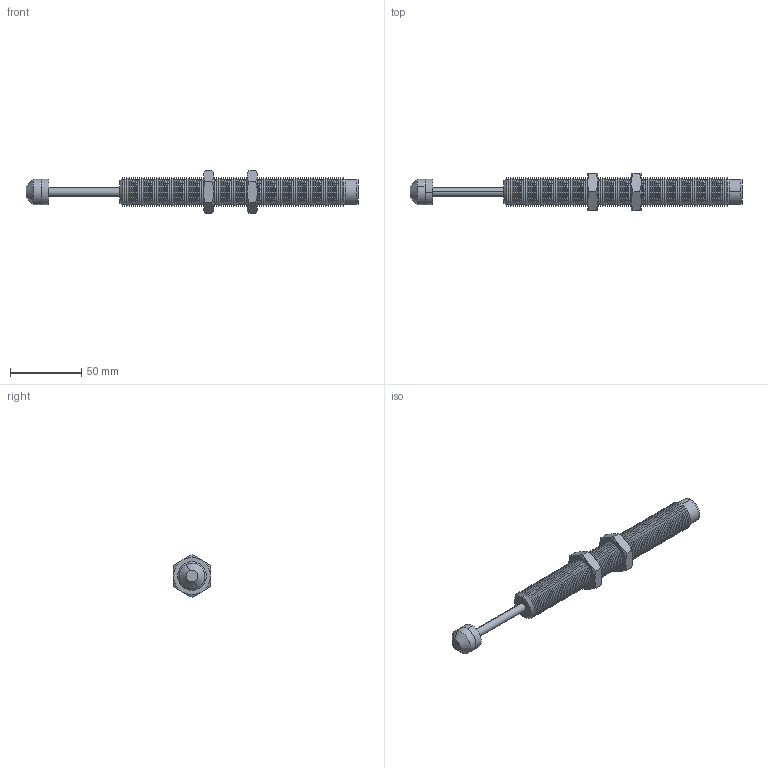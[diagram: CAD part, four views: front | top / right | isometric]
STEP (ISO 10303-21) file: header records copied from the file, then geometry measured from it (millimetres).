
FILE_DESCRIPTION (( 'STEP AP203' ), '1' );
FILE_NAME ('68002.W0209.step', '2017-02-27T15:54:18', ( 'User' ), ( '' ), 'SwSTEP 2.0', 'SolidWorks 2009', '' );
FILE_SCHEMA (( 'CONFIG_CONTROL_DESIGN' ));
Length unit declared in the file: millimetre
Products named in the file (8): 68002.W0209; Part5_68002.W0209; Part1_68002.W0209; Part2_68002.W0209; Part6_68002.W0209; Part3_68002.W0209; Part4_68002.W0209; Part7_68002.W0209
Assembly tree (8 placements, depth 2):
  68002.W0209
    Part6_68002.W0209  x2
    Part7_68002.W0209
    Part2_68002.W0209
    Part1_68002.W0209
    Part4_68002.W0209
    Part3_68002.W0209
    Part5_68002.W0209
Bounding box: 232.8 x 26 x 30.02 mm (x, y, z)
Volume: 53355.8 mm3; surface area: 27657.5 mm2
Topology: 8 solids, 8 shells, 519 faces, 1044 edges, 543 vertices
Faces by surface type: cone 448, plane 43, cylinder 26, torus 2
Entity records: 13436 total; most frequent: DIRECTION 2468, CARTESIAN_POINT 2153, ORIENTED_EDGE 1980, AXIS2_PLACEMENT_3D 996, EDGE_CURVE 990, VERTEX_POINT 513, EDGE_LOOP 505, ADVANCED_FACE 495
